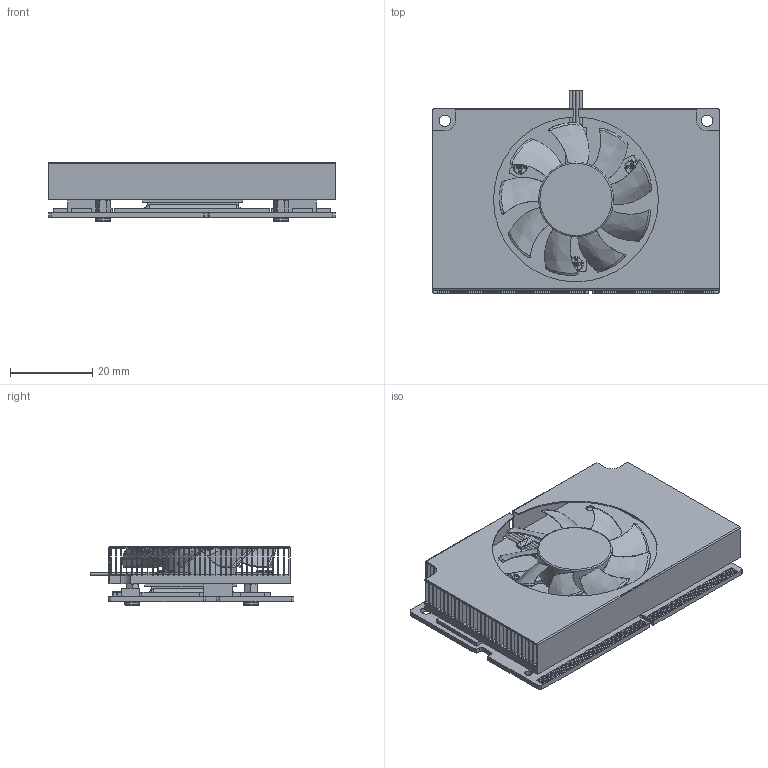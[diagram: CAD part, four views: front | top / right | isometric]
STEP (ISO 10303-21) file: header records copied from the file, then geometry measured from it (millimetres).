
FILE_DESCRIPTION(/* description */ ('Attractec Jetstream ONX'),/* implementation_level */ '2;1');
FILE_NAME(/* name */ 'Jetstream ONX model for integration.step',/* time_stamp */ '2026-09-01T15:49:17+03:00',/* author */ (''),/* organization */ (''),/* preprocessor_version */ 'ST-DEVELOPER v20.1',/* originating_system */ 'Autodesk Translation Framework v15.8.0.0',/* authorisation */ '');
FILE_SCHEMA (('AUTOMOTIVE_DESIGN { 1 0 10303 214 3 1 1 }'));
Products named in the file (12): 2026-09-01-15-22-53-232; P3767_ASM.stp_2; Capacitors; Capacitor (1); Capacitor (3); Capacitor; GROGU_MODULE_BOARD_ME.stp; 080-1655-000_3.stp; Ferrites; CPU; RAM; FETs
Assembly tree (30 placements, depth 4):
  2026-09-01-15-22-53-232
    P3767_ASM.stp_2
      Capacitors
        Capacitor  x12
        Capacitor (3)  x4
        Capacitor (1)  x6
      GROGU_MODULE_BOARD_ME.stp
      080-1655-000_3.stp
      Ferrites
      CPU
      RAM
      FETs
Bounding box: 69.6 x 49.41 x 14.3 mm (x, y, z)
Volume: 17072.8 mm3; surface area: 36083.2 mm2
Topology: 295 solids, 295 shells, 3711 faces, 8806 edges, 5573 vertices
Faces by surface type: plane 2669, cylinder 645, sphere 144, bspline 131, torus 64, cone 58
Full cylindrical faces by diameter (mm): 0.7 x4, 1.478 x21, 1.623 x10, 1.8 x2, 1.933 x12, 2 x4, 2.075 x4, 2.1 x3, 2.75 x2, 3 x4, 3.2 x4, 3.5 x7, 18.129 x1
Entity records: 101149 total; most frequent: CARTESIAN_POINT 29387, ORIENTED_EDGE 14836, DIRECTION 13616, EDGE_CURVE 7418, LINE 5972, VECTOR 5972, VERTEX_POINT 4893, AXIS2_PLACEMENT_3D 3822
